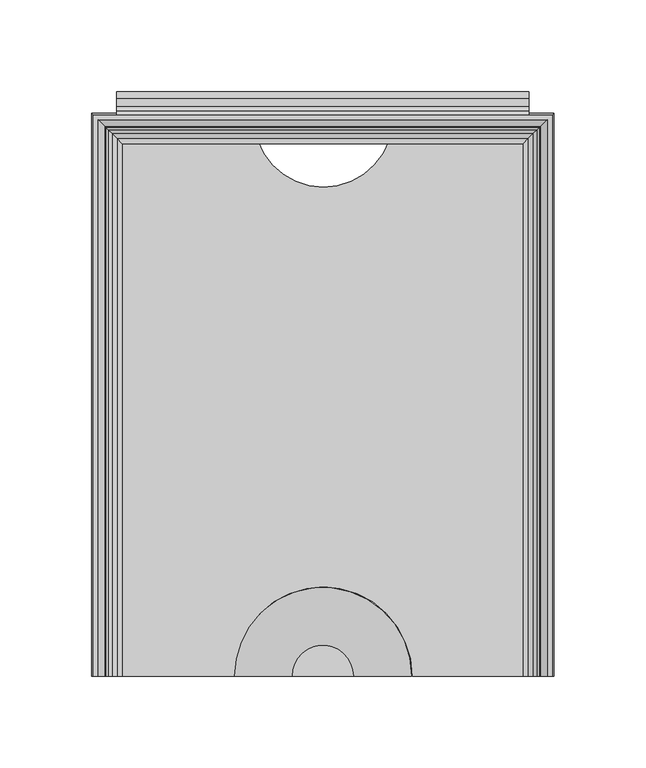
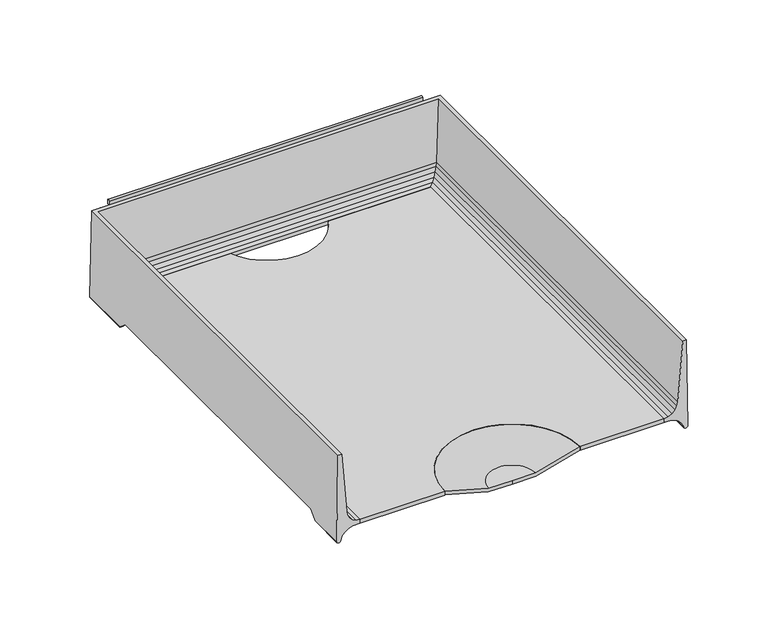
"""IFC4 building model written with IfcOpenShell, lengths in millimetres: furniture geometry."""

from ifc_helpers import new_model, si_unit, point, frame, frame_2d, origin, place, context, project, spatial, polyline, circle_curve, ellipse_curve, trimmed, segment, composite_curve, outline, extrude, source, transform, mapped, element, save
from ifc_brep_helpers import plane_surface, cylinder_surface, revolved_surface, advanced_brep


def furniture_a37e439a(model_context):
    return source(origin(), model_context, "Body", "SolidModel", [
        advanced_brep(
        [(126.0820502, -154.0206082, 1077.6007489), (125.1325529, -154.0206082, 1143.0001914), (122.4547921, -154.0206082, 1143.0001914), (118.8379747, -154.0206082, 1098.2131003), (118.4123648, -154.0206082, 1095.4796052), (117.0774354, -154.0206082, 1092.7785664), (114.9656457, -154.0206082, 1090.6296015), (112.28832, -154.0206082, 1089.2477261), (109.3133381, -154.0206082, 1088.7712052), (109.3133381, -154.0206082, 1085.9490971), (114.5666739, -154.0206082, 1085.7560987), (117.605351, -154.0206082, 1084.6997218), (120.2416, -154.0206082, 1082.8558822), (122.2762142, -154.0206082, 1080.3639079), (123.1625518, -154.0206082, 1077.3206655), (126.0820502, -127.6379698, 1077.6007489), (126.0026181, -121.5231874, 1083.071872), (126.0026181, 109.0611937, 1083.071872), (126.0820502, 115.1759816, 1077.6007489), (126.0820502, 153.036442, 1077.6007489), (125.1325529, 152.0869447, 1143.0001914), (-125.1325529, 152.0869447, 1143.0001914), (-125.1325529, -154.0206082, 1143.0001914), (-122.4547921, -154.0206082, 1143.0001914), (-122.4547921, 149.4091839, 1143.0001914), (122.4547921, 149.4091839, 1143.0001914), (118.8379747, 145.7923665, 1098.2131003), (118.4123648, 145.3667566, 1095.4796052), (117.0774354, 144.0318272, 1092.7785664), (114.9656457, 141.9200375, 1090.6296015), (112.28832, 139.2427118, 1089.2477261), (109.3133381, 136.2677299, 1088.7712052), (109.3133381, 136.2677299, 1085.9490971), (114.5666739, 141.5210656, 1085.7560987), (117.605351, 144.5597428, 1084.6997218), (120.2416, 147.1959918, 1082.8558822), (120.2416, 109.3025941, 1082.8558822), (119.9327864, 109.0611937, 1083.071872), (119.9327864, -121.5231874, 1083.071872), (120.2416, -121.7645876, 1082.8558822), (122.2762142, -124.5497344, 1080.3639079), (122.2762142, 149.230606, 1080.3639079), (122.2762142, 112.0877435, 1080.3639079), (123.1625518, -127.9510041, 1077.3206655), (123.1625518, 150.1169436, 1077.3206655), (123.1625518, 115.4890162, 1077.3206655), (-126.0820502, 153.036442, 1077.6007489), (-118.8379747, 145.7923665, 1098.2131003), (-118.4123648, 145.3667566, 1095.4796052), (-117.0774354, 144.0318272, 1092.7785664), (-114.9656457, 141.9200375, 1090.6296015), (-112.28832, 139.2427118, 1089.2477261), (-109.3133381, 136.2677299, 1088.7712052), (-109.3133381, 136.2677299, 1085.9490971), (-114.5666739, 141.5210656, 1085.7560987), (-117.605351, 144.5597428, 1084.6997218), (-120.2416, 147.1959918, 1082.8558822), (-122.2762142, 149.230606, 1080.3639079), (-123.1625518, 150.1169436, 1077.3206655), (-126.0820502, -154.0206082, 1077.6007489), (-123.1625518, -154.0206082, 1077.3206655), (-122.2762142, -154.0206082, 1080.3639079), (-120.2416, -154.0206082, 1082.8558822), (-117.605351, -154.0206082, 1084.6997218), (-114.5666739, -154.0206082, 1085.7560987), (-109.3133381, -154.0206082, 1085.9490971), (-109.3133381, -154.0206082, 1088.7712052), (-112.28832, -154.0206082, 1089.2477261), (-114.9656457, -154.0206082, 1090.6296015), (-117.0774354, -154.0206082, 1092.7785664), (-118.4123648, -154.0206082, 1095.4796052), (-118.8379747, -154.0206082, 1098.2131003), (-126.0820502, 115.1759816, 1077.6007489), (-126.0026181, 109.0611937, 1083.071872), (-126.0026181, -121.5231874, 1083.071872), (-126.0820502, -127.6379698, 1077.6007489), (-120.2416, -121.7645876, 1082.8558822), (-119.9327864, -121.5231874, 1083.071872), (-119.9327864, 109.0611937, 1083.071872), (-120.2416, 109.3025941, 1082.8558822), (-122.2762142, 112.0877435, 1080.3639079), (-122.2762142, -124.5497344, 1080.3639079), (-123.1625518, 115.4890162, 1077.3206655), (-123.1625518, -127.9510041, 1077.3206655)],
        [
            (0, 1),
            (1, 2),
            (2, 3),
            (3, 4),
            (4, 5),
            (5, 6),
            (6, 7),
            (7, 8),
            (8, 9),
            (9, 10),
            (10, 11),
            (11, 12),
            (12, 13),
            (13, 14),
            (14, 0, circle_curve(frame((124.5859452, -154.0206082, 1077.8396685), z_axis=(0.0, -1.0, 0.0), x_axis=(-1.0, 0.0, 0.0)), 1.515062)),
            (0, 15),
            (15, 16),
            (16, 17),
            (17, 18),
            (18, 19),
            (19, 20),
            (20, 1),
            (20, 21),
            (21, 22),
            (22, 23),
            (23, 24),
            (24, 25),
            (25, 2),
            (25, 26),
            (26, 3),
            (26, 27),
            (27, 4),
            (27, 28),
            (28, 5),
            (28, 29),
            (29, 6),
            (29, 30),
            (30, 7),
            (30, 31),
            (31, 8),
            (31, 32),
            (32, 9),
            (32, 33),
            (33, 10),
            (33, 34),
            (34, 11),
            (34, 35),
            (35, 36),
            (36, 37),
            (37, 38),
            (38, 39),
            (39, 12),
            (39, 40),
            (40, 13),
            (35, 41),
            (41, 42),
            (42, 36),
            (40, 43),
            (43, 14),
            (41, 44),
            (44, 45),
            (45, 42),
            (43, 15, ellipse_curve(frame((124.5859452, -127.3709422, 1077.8396685), z_axis=(0.0, -0.6667949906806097, 0.7452411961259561), x_axis=(0.0, -0.7452411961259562, -0.6667949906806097)), 2.2721556, 1.515062)),
            (44, 19, ellipse_curve(frame((124.5859452, 151.540337, 1077.8396685), z_axis=(0.7071067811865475, -0.7071067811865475, 0.0), x_axis=(-0.7071067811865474, -0.7071067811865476, 0.0)), 2.1426212, 1.515062)),
            (18, 45, ellipse_curve(frame((124.5859452, 114.9089538, 1077.8396685), z_axis=(0.0, 0.6667946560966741, 0.7452414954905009), x_axis=(0.0, -0.7452414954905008, 0.6667946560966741)), 2.2721567, 1.515062)),
            (19, 46),
            (46, 21),
            (24, 47),
            (47, 26),
            (47, 48),
            (48, 27),
            (48, 49),
            (49, 28),
            (49, 50),
            (50, 29),
            (50, 51),
            (51, 30),
            (51, 52),
            (52, 31),
            (52, 53),
            (53, 32),
            (53, 54),
            (54, 33),
            (54, 55),
            (55, 34),
            (55, 56),
            (56, 35),
            (56, 57),
            (57, 41),
            (57, 58),
            (58, 44),
            (58, 46, ellipse_curve(frame((-124.5859452, 151.540337, 1077.8396685), z_axis=(0.7071067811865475, 0.7071067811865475, 0.0), x_axis=(0.7071067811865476, -0.7071067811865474, 0.0)), 2.1426212, 1.515062)),
            (22, 59),
            (59, 60, circle_curve(frame((-124.5859452, -154.0206082, 1077.8396685), z_axis=(0.0, -1.0, 0.0), x_axis=(1.0, 0.0, 0.0)), 1.515062)),
            (60, 61),
            (61, 62),
            (62, 63),
            (63, 64),
            (64, 65),
            (65, 66),
            (66, 67),
            (67, 68),
            (68, 69),
            (69, 70),
            (70, 71),
            (71, 23),
            (46, 72),
            (72, 73),
            (73, 74),
            (74, 75),
            (75, 59),
            (71, 47),
            (70, 48),
            (69, 49),
            (68, 50),
            (67, 51),
            (66, 52),
            (65, 53),
            (64, 54),
            (63, 55),
            (62, 76),
            (76, 77),
            (77, 78),
            (78, 79),
            (79, 56),
            (79, 80),
            (80, 57),
            (61, 81),
            (81, 76),
            (80, 82),
            (82, 58),
            (60, 83),
            (83, 81),
            (82, 72, ellipse_curve(frame((-124.5859452, 114.9089538, 1077.8396685), z_axis=(0.0, 0.6667946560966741, 0.7452414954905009), x_axis=(0.0, 0.7452414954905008, -0.6667946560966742)), 2.2721567, 1.515062)),
            (75, 83, ellipse_curve(frame((-124.5859452, -127.3709422, 1077.8396685), z_axis=(0.0, -0.6667949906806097, 0.7452411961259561), x_axis=(0.0, 0.745241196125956, 0.6667949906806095)), 2.2721556, 1.515062)),
            (38, 16),
            (74, 77),
            (37, 17),
            (73, 78),
        ],
        [
            plane_surface(frame((127.0, -154.0206082, 1076.325), z_axis=(0.0, -1.0, 0.0), x_axis=(0.0, 0.0, 1.0))),
            plane_surface(frame((126.0820502, -154.0206082, 1077.6007489), z_axis=(0.9998946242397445, 0.0, 0.014516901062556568), x_axis=(0.0, 1.0, 0.0))),
            plane_surface(frame((125.1325529, -154.0206082, 1143.0001914), z_axis=(0.0, 0.0, 1.0), x_axis=(0.0, 1.0, 0.0))),
            plane_surface(frame((122.4547921, -154.0206082, 1143.0001914), z_axis=(-0.9967551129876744, 0.0, 0.08049375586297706), x_axis=(0.0, 1.0, 0.0))),
            plane_surface(frame((118.8379747, -154.0206082, 1098.2131003), z_axis=(-0.9880945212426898, 0.0, 0.15384803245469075), x_axis=(0.0, 1.0, 0.0))),
            plane_surface(frame((118.4123648, -154.0206082, 1095.4796052), z_axis=(-0.8964873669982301, 0.0, 0.44306929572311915), x_axis=(0.0, 1.0, 0.0))),
            plane_surface(frame((117.0774354, -154.0206082, 1092.7785664), z_axis=(-0.7132491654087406, 0.0, 0.7009105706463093), x_axis=(0.0, 1.0, 0.0))),
            plane_surface(frame((114.9656457, -154.0206082, 1090.6296015), z_axis=(-0.45865074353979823, 0.0, 0.8886166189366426), x_axis=(0.0, 1.0, 0.0))),
            plane_surface(frame((112.28832, -154.0206082, 1089.2477261), z_axis=(-0.15816001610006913, 0.0, 0.987413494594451), x_axis=(0.0, 1.0, 0.0))),
            plane_surface(frame((109.3133381, -154.0206082, 1088.7712052), z_axis=(-1.0, 0.0, 0.0), x_axis=(0.0, 1.0, 0.0))),
            plane_surface(frame((109.3133381, -154.0206082, 1085.9490971), z_axis=(-0.036713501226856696, 0.0, -0.9993258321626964), x_axis=(0.0, 1.0, 0.0))),
            plane_surface(frame((114.5666739, -154.0206082, 1085.7560987), z_axis=(-0.3283669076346, 0.0, -0.9445502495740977), x_axis=(0.0, 1.0, 0.0))),
            plane_surface(frame((117.605351, -154.0206082, 1084.6997218), z_axis=(-0.5731421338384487, 0.0, -0.819455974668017), x_axis=(0.0, 1.0, 0.0))),
            plane_surface(frame((120.2416, -154.0206082, 1082.8558822), z_axis=(-0.77460799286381, 0.0, -0.6324416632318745), x_axis=(0.0, 1.0, 0.0))),
            plane_surface(frame((122.2762142, -154.0206082, 1080.3639079), z_axis=(-0.9601080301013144, 0.0, -0.2796293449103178), x_axis=(0.0, 1.0, 0.0))),
            cylinder_surface(frame((124.5859452, -154.0206082, 1077.8396685), z_axis=(0.0, -1.0, 0.0), x_axis=(-1.0, 0.0, 0.0)), 1.515062),
            plane_surface(frame((126.0820502, 153.036442, 1077.6007489), z_axis=(0.0, 0.9998946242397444, 0.014516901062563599), x_axis=(-1.0, 0.0, 0.0))),
            plane_surface(frame((122.4547921, 149.4091839, 1143.0001914), z_axis=(0.0, -0.9967551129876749, 0.08049375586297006), x_axis=(-1.0, 0.0, 0.0))),
            plane_surface(frame((118.8379747, 145.7923665, 1098.2131003), z_axis=(0.0, -0.9880945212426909, 0.15384803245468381), x_axis=(-1.0, 0.0, 0.0))),
            plane_surface(frame((118.4123648, 145.3667566, 1095.4796052), z_axis=(0.0, -0.8964873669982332, 0.4430692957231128), x_axis=(-1.0, 0.0, 0.0))),
            plane_surface(frame((117.0774354, 144.0318272, 1092.7785664), z_axis=(0.0, -0.7132491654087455, 0.7009105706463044), x_axis=(-1.0, 0.0, 0.0))),
            plane_surface(frame((114.9656457, 141.9200375, 1090.6296015), z_axis=(0.0, -0.4586507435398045, 0.8886166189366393), x_axis=(-1.0, 0.0, 0.0))),
            plane_surface(frame((112.28832, 139.2427118, 1089.2477261), z_axis=(0.0, -0.15816001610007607, 0.9874134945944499), x_axis=(-1.0, 0.0, 0.0))),
            plane_surface(frame((109.3133381, 136.2677299, 1088.7712052), z_axis=(0.0, -1.0, 0.0), x_axis=(-1.0, 0.0, 0.0))),
            plane_surface(frame((109.3133381, 136.2677299, 1085.9490971), z_axis=(0.0, -0.03671350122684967, -0.9993258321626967), x_axis=(-1.0, 0.0, 0.0))),
            plane_surface(frame((114.5666739, 141.5210656, 1085.7560987), z_axis=(0.0, -0.32836690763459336, -0.9445502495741), x_axis=(-1.0, 0.0, 0.0))),
            plane_surface(frame((117.605351, 144.5597428, 1084.6997218), z_axis=(0.0, -0.5731421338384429, -0.819455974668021), x_axis=(-1.0, 0.0, 0.0))),
            plane_surface(frame((120.2416, 147.1959918, 1082.8558822), z_axis=(0.0, -0.7746079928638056, -0.6324416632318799), x_axis=(-1.0, 0.0, 0.0))),
            plane_surface(frame((122.2762142, 149.230606, 1080.3639079), z_axis=(0.0, -0.9601080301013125, -0.27962934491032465), x_axis=(-1.0, 0.0, 0.0))),
            cylinder_surface(frame((127.0, 151.540337, 1077.8396685), z_axis=(1.0, 0.0, 0.0), x_axis=(0.0, -1.0, 0.0)), 1.515062),
            plane_surface(frame((-127.0, -154.0206082, 1076.325), z_axis=(0.0, -1.0, 0.0), x_axis=(0.0, 0.0, 1.0))),
            plane_surface(frame((-126.0820502, 153.036442, 1077.6007489), z_axis=(-0.9998946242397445, 0.0, 0.014516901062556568), x_axis=(0.0, -1.0, 0.0))),
            plane_surface(frame((-122.4547921, 149.4091839, 1143.0001914), z_axis=(0.9967551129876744, 0.0, 0.08049375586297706), x_axis=(0.0, -1.0, 0.0))),
            plane_surface(frame((-118.8379747, 145.7923665, 1098.2131003), z_axis=(0.9880945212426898, 0.0, 0.15384803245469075), x_axis=(0.0, -1.0, 0.0))),
            plane_surface(frame((-118.4123648, 145.3667566, 1095.4796052), z_axis=(0.8964873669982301, 0.0, 0.44306929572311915), x_axis=(0.0, -1.0, 0.0))),
            plane_surface(frame((-117.0774354, 144.0318272, 1092.7785664), z_axis=(0.7132491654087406, 0.0, 0.7009105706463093), x_axis=(0.0, -1.0, 0.0))),
            plane_surface(frame((-114.9656457, 141.9200375, 1090.6296015), z_axis=(0.45865074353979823, 0.0, 0.8886166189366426), x_axis=(0.0, -1.0, 0.0))),
            plane_surface(frame((-112.28832, 139.2427118, 1089.2477261), z_axis=(0.15816001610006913, 0.0, 0.987413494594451), x_axis=(0.0, -1.0, 0.0))),
            plane_surface(frame((-109.3133381, 136.2677299, 1088.7712052), z_axis=(1.0, 0.0, 0.0), x_axis=(0.0, -1.0, 0.0))),
            plane_surface(frame((-109.3133381, 136.2677299, 1085.9490971), z_axis=(0.036713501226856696, 0.0, -0.9993258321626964), x_axis=(0.0, -1.0, 0.0))),
            plane_surface(frame((-114.5666739, 141.5210656, 1085.7560987), z_axis=(0.3283669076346, 0.0, -0.9445502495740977), x_axis=(0.0, -1.0, 0.0))),
            plane_surface(frame((-117.605351, 144.5597428, 1084.6997218), z_axis=(0.5731421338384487, 0.0, -0.819455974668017), x_axis=(0.0, -1.0, 0.0))),
            plane_surface(frame((-120.2416, 147.1959918, 1082.8558822), z_axis=(0.77460799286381, 0.0, -0.6324416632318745), x_axis=(0.0, -1.0, 0.0))),
            plane_surface(frame((-122.2762142, 149.230606, 1080.3639079), z_axis=(0.9601080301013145, 0.0, -0.2796293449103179), x_axis=(0.0, -1.0, 0.0))),
            cylinder_surface(frame((-124.5859452, 153.9543918, 1077.8396685), z_axis=(0.0, 1.0, 0.0), x_axis=(1.0, 0.0, 0.0)), 1.515062),
            plane_surface(frame((-127.0, -130.1695728, 1075.3356296), z_axis=(0.0, 0.6667949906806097, -0.7452411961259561), x_axis=(1.0, 0.0, 0.0))),
            plane_surface(frame((-127.0, -121.5231874, 1083.071872), z_axis=(0.0, 0.0, -1.0), x_axis=(1.0, 0.0, 0.0))),
            plane_surface(frame((-127.0, 109.0611937, 1083.071872), z_axis=(0.0, -0.6667946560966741, -0.7452414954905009), x_axis=(1.0, 0.0, 0.0))),
        ],
        [
            (0, [[1, 2, 3, 4, 5, 6, 7, 8, 9, 10, 11, 12, 13, 14, 15]]),
            (1, [[-1, 16, 17, 18, 19, 20, 21, 22]]),
            (2, [[-2, -22, 23, 24, 25, 26, 27, 28]]),
            (3, [[-3, -28, 29, 30]]),
            (4, [[-4, -30, 31, 32]]),
            (5, [[-5, -32, 33, 34]]),
            (6, [[-6, -34, 35, 36]]),
            (7, [[-7, -36, 37, 38]]),
            (8, [[-8, -38, 39, 40]]),
            (9, [[-9, -40, 41, 42]]),
            (10, [[-10, -42, 43, 44]]),
            (11, [[-11, -44, 45, 46]]),
            (12, [[-12, -46, 47, 48, 49, 50, 51, 52]]),
            (13, [[-13, -52, 53, 54]]),
            (13, [[55, 56, 57, -48]]),
            (14, [[-14, -54, 58, 59]]),
            (14, [[60, 61, 62, -56]]),
            (15, [[-15, -59, 63, -16]]),
            (15, [[64, -20, 65, -61]]),
            (16, [[-21, 66, 67, -23]]),
            (17, [[-27, 68, 69, -29]]),
            (18, [[-31, -69, 70, 71]]),
            (19, [[-33, -71, 72, 73]]),
            (20, [[-35, -73, 74, 75]]),
            (21, [[-37, -75, 76, 77]]),
            (22, [[-39, -77, 78, 79]]),
            (23, [[-41, -79, 80, 81]]),
            (24, [[-43, -81, 82, 83]]),
            (25, [[-45, -83, 84, 85]]),
            (26, [[-47, -85, 86, 87]]),
            (27, [[-55, -87, 88, 89]]),
            (28, [[-60, -89, 90, 91]]),
            (29, [[-64, -91, 92, -66]]),
            (30, [[-25, 93, 94, 95, 96, 97, 98, 99, 100, 101, 102, 103, 104, 105, 106]]),
            (31, [[-24, -67, 107, 108, 109, 110, 111, -93]]),
            (32, [[-26, -106, 112, -68]]),
            (33, [[-70, -112, -105, 113]]),
            (34, [[-72, -113, -104, 114]]),
            (35, [[-74, -114, -103, 115]]),
            (36, [[-76, -115, -102, 116]]),
            (37, [[-78, -116, -101, 117]]),
            (38, [[-80, -117, -100, 118]]),
            (39, [[-82, -118, -99, 119]]),
            (40, [[-84, -119, -98, 120]]),
            (41, [[-86, -120, -97, 121, 122, 123, 124, 125]]),
            (42, [[-88, -125, 126, 127]]),
            (42, [[-96, 128, 129, -121]]),
            (43, [[-90, -127, 130, 131]]),
            (43, [[-95, 132, 133, -128]]),
            (44, [[-92, -131, 134, -107]]),
            (44, [[-94, -111, 135, -132]]),
            (45, [[136, -17, -63, -58, -53, -51]]),
            (45, [[137, -122, -129, -133, -135, -110]]),
            (46, [[-136, -50, 138, -18]]),
            (46, [[-137, -109, 139, -123]]),
            (47, [[-138, -49, -57, -62, -65, -19]]),
            (47, [[-139, -108, -134, -130, -126, -124]]),
        ],
    ),
        extrude(outline(composite_curve([segment(polyline([(-109.3647805, 138.2769393), (-35.6610422, 138.2769393)]), True, "CONTINUOUS"), segment(trimmed(circle_curve(frame_2d((0.3369133, 150.6584166)), 38.0677525), [point((-35.6610422, 138.2769393))], [point((36.3348688, 138.2769393))], True, "CARTESIAN"), True, "CONTINUOUS"), segment(polyline([(36.3348688, 138.2769393), (109.6504969, 138.2769393), (109.6504969, -153.9875), (48.9112184, -153.9875)]), True, "CONTINUOUS"), segment(trimmed(circle_curve(frame_2d((0.2842795, -153.9323196)), 48.6269702), [point((48.9112184, -153.9875))], [point((-48.3426595, -153.9875))], True, "CARTESIAN"), True, "CONTINUOUS"), segment(polyline([(-48.3426595, -153.9875), (-109.3647805, -153.9875), (-109.3647805, 138.2769393)]), True, "CONTINUOUS")], self_intersect=False)), frame((0.0, 0.0, 1085.9314677), z_axis=(0.0, 0.0, 1.0), x_axis=(1.0, 0.0, 0.0)), (0.0, 0.0, 1.0), 2.8395461),
        extrude(outline(composite_curve([segment(trimmed(circle_curve(frame_2d((162.7186949, 1127.1707343)), 1.9049988), [point((164.6236937, 1127.1707343))], [point((160.8136962, 1127.1707343))], False, "CARTESIAN"), True, "CONTINUOUS"), segment(polyline([(160.8136962, 1127.1707343), (160.8136962, 1130.5997311), (160.0516969, 1131.3617303), (156.4380325, 1131.3617303), (152.1427596, 1129.0143331), (152.1427596, 1137.5191285), (156.4380325, 1135.1717312), (160.8136928, 1135.1717312)]), True, "CONTINUOUS"), segment(trimmed(circle_curve(frame_2d((160.8136928, 1131.3617303)), 3.8100009), [point((160.8136928, 1135.1717312))], [point((164.6236937, 1131.3617303))], False, "CARTESIAN"), True, "CONTINUOUS"), segment(polyline([(164.6236937, 1131.3617303), (164.6236937, 1127.1707343)]), True, "CONTINUOUS")], self_intersect=False)), frame((-112.5397809, 0.0, 0.0), z_axis=(1.0, 0.0, 0.0), x_axis=(0.0, 1.0, 0.0)), (0.0, 0.0, 1.0), 225.0795617),
        advanced_brep(
        [(-16.8929028, -153.9875, 1079.896875), (-48.4614622, -153.9875, 1088.8045432), (-48.4614622, -153.9875, 1086.2130018), (-16.9249292, -153.9875, 1077.3143704), (0.0, -153.9875, 1077.3143704), (0.0, -153.9875, 1079.896875), (16.8929028, -153.9875, 1079.896875), (16.9249292, -153.9875, 1077.3143704), (48.4614622, -153.9875, 1086.2130018), (48.4614622, -153.9875, 1088.8045432)],
        [
            (0, 1),
            (1, 2),
            (2, 3),
            (3, 4),
            (4, 5),
            (5, 0),
            (6, 5),
            (4, 7),
            (7, 8),
            (8, 9),
            (9, 6),
            (9, 1, circle_curve(frame((0.0, -153.9875, 1088.8045432), z_axis=(0.0, 0.0, 1.0), x_axis=(-1.0, 0.0, 0.0)), 48.4614622)),
            (0, 6, circle_curve(frame((0.0, -153.9875, 1079.896875), z_axis=(0.0, 0.0, -1.0), x_axis=(-1.0, 0.0, 0.0)), 16.8929028)),
            (8, 2, circle_curve(frame((0.0, -153.9875, 1086.2130018), z_axis=(0.0, 0.0, 1.0), x_axis=(-1.0, 0.0, 0.0)), 48.4614622)),
            (7, 3, circle_curve(frame((0.0, -153.9875, 1077.3143704), z_axis=(0.0, 0.0, 1.0), x_axis=(-1.0, 0.0, 0.0)), 16.9249292)),
        ],
        [
            plane_surface(frame((0.0, -153.9875, 1076.325), z_axis=(0.0, -1.0, 0.0), x_axis=(-1.0, 0.0, 0.0))),
            plane_surface(frame((0.0, -153.9875, 1076.325), z_axis=(0.0, -1.0, 0.0), x_axis=(1.0, 0.0, 0.0))),
            revolved_surface(polyline([(-48.4614622, -153.9875, 1088.8045432), (-16.8929028, -153.9875, 1079.896875)]), (0.0, -153.9875, 1076.325), (0.0, 0.0, 1.0)),
            cylinder_surface(frame((0.0, -153.9875, 1076.325), z_axis=(0.0, 0.0, 1.0), x_axis=(-1.0, 0.0, 0.0)), 48.4614622),
            revolved_surface(polyline([(-16.9249292, -153.9875, 1077.3143704), (-48.4614622, -153.9875, 1086.2130018)]), (0.0, -153.9875, 1076.325), (0.0, 0.0, 1.0)),
            plane_surface(frame((0.0, -153.9875, 1077.3143704), z_axis=(0.0, 0.0, -1.0), x_axis=(-1.0, 0.0, 0.0))),
            plane_surface(frame((0.0, -153.9875, 1079.896875), z_axis=(0.0, 0.0, 1.0), x_axis=(-1.0, 0.0, 0.0))),
        ],
        [
            (0, [[1, 2, 3, 4, 5, 6]]),
            (1, [[7, -5, 8, 9, 10, 11]]),
            (2, [[12, -1, 13, -11]]),
            (3, [[14, -2, -12, -10]]),
            (4, [[15, -3, -14, -9]]),
            (5, [[-4, -15, -8]]),
            (6, [[-13, -6, -7]]),
        ],
    ),
        extrude(outline(composite_curve([segment(polyline([(153.9875, 1143.0), (152.1427596, 1143.0), (152.1427596, 1145.8315333)]), True, "CONTINUOUS"), segment(trimmed(circle_curve(frame_2d((153.0651298, 1145.5262665)), 0.9715733), [point((152.1427596, 1145.8315333))], [point((153.9875, 1145.8315333))], False, "CARTESIAN"), True, "CONTINUOUS"), segment(polyline([(153.9875, 1145.8315333), (153.9875, 1143.0)]), True, "CONTINUOUS")], self_intersect=False)), frame((-112.5397809, 0.0, 0.0), z_axis=(1.0, 0.0, 0.0), x_axis=(0.0, 1.0, 0.0)), (0.0, 0.0, 1.0), 225.0795617),
    ])


if __name__ == "__main__":
    model = new_model("IFC4")
    model_context = context("Model", 3, world=origin())
    ifc_project = project(units=[si_unit("LENGTHUNIT", "METRE", prefix="MILLI")], contexts=[model_context])
    site = spatial("IfcSite", under=ifc_project)
    building = spatial("IfcBuilding", under=site)
    placement = place(None, origin())
    furniture_shape = furniture_a37e439a(model_context)
    element("IfcFurniture", 1, ObjectType="HermanMiller_ThrivePortfolio_Y7216_PaperTray : 3\"H x 12\"D x 10\"W", at=placement, inside=building, context=model_context, shape_type="MappedRepresentation", body=[
        mapped(furniture_shape, transform((0.0, 0.0, 0.0), x_axis=(1.0, 0.0, 0.0), y_axis=(0.0, 1.0, 0.0), z_axis=(0.0, 0.0, 1.0))),
    ])
    save(model, "model.ifc")
